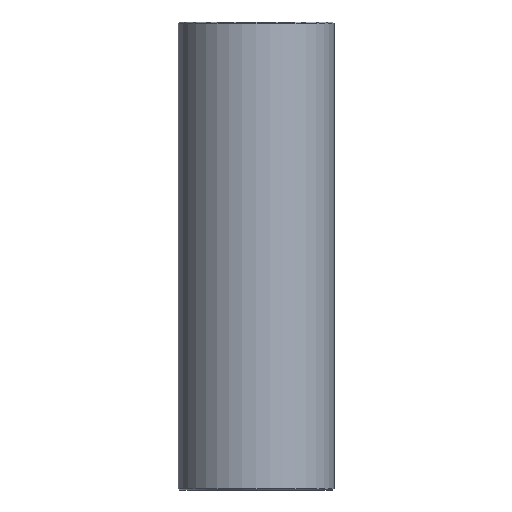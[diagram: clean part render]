
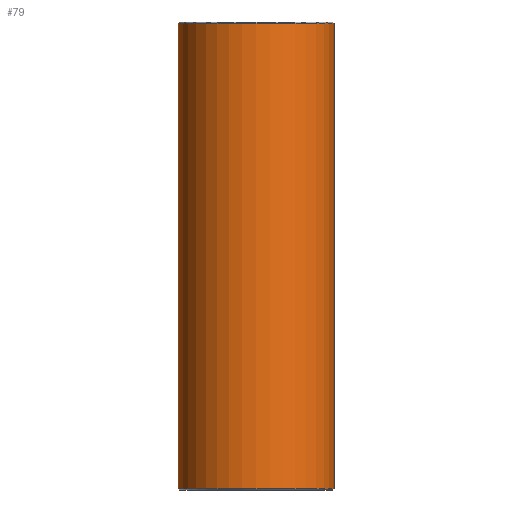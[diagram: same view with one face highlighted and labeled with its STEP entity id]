
A CAD part, front view. The second image highlights one B-rep face of the part: STEP entity #79.
In plain terms, the highlighted cylindrical face has radius 15 mm (diameter 30 mm), a full revolution.
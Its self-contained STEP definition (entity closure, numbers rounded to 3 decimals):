
#79=ADVANCED_FACE('',(#96,#97),#98,.T.);
#96=FACE_OUTER_BOUND('',#120,.T.);
#97=FACE_OUTER_BOUND('',#121,.T.);
#98=CYLINDRICAL_SURFACE('',#122,15.0);
#120=EDGE_LOOP('',(#152));
#121=EDGE_LOOP('',(#153));
#122=AXIS2_PLACEMENT_3D('',#154,#155,#156);
#152=ORIENTED_EDGE('',*,*,#178,.T.);
#153=ORIENTED_EDGE('',*,*,#177,.T.);
#154=CARTESIAN_POINT('',(0.0,0.0,90.0));
#155=DIRECTION('',(0.0,0.0,-1.0));
#156=DIRECTION('',(-1.0,0.0,0.0));
#177=EDGE_CURVE('',#190,#190,#191,.T.);
#178=EDGE_CURVE('',#192,#192,#193,.F.);
#190=VERTEX_POINT('',#206);
#191=CIRCLE('',#207,15.0);
#192=VERTEX_POINT('',#208);
#193=CIRCLE('',#209,15.0);
#206=CARTESIAN_POINT('',(15.0,0.0,0.2));
#207=AXIS2_PLACEMENT_3D('',#227,#228,#229);
#208=CARTESIAN_POINT('',(15.0,0.,89.8));
#209=AXIS2_PLACEMENT_3D('',#230,#231,#232);
#227=CARTESIAN_POINT('',(0.0,0.0,0.2));
#228=DIRECTION('',(0.0,0.0,1.0));
#229=DIRECTION('',(1.0,0.0,0.0));
#230=CARTESIAN_POINT('',(0.0,0.0,89.8));
#231=DIRECTION('',(0.0,0.0,1.0));
#232=DIRECTION('',(1.0,0.0,0.0));
